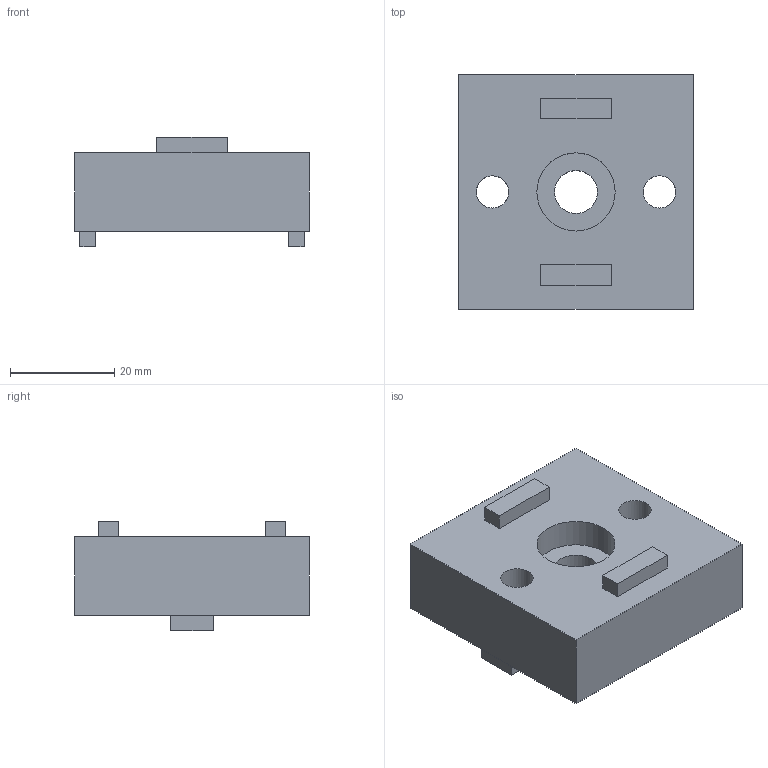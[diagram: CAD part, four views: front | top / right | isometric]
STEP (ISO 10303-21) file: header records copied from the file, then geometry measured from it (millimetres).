
FILE_DESCRIPTION(/* description */ ('Connector 45.45.15'),/* implementation_level */ '2;1');
FILE_NAME(/* name */ 'PA1300030000.stp',/* time_stamp */ '2024-02-07T13:20:18+01:00',/* author */ ('r.biemans'),/* organization */ (''),/* preprocessor_version */ 'ST-DEVELOPER v19.2',/* originating_system */ 'Autodesk Inventor 2023',/* authorisation */ '');
FILE_SCHEMA (('AUTOMOTIVE_DESIGN { 1 0 10303 214 3 1 1 }'));
Length unit declared in the file: millimetre
Products named in the file (1): PA1300030000
Bounding box: 45 x 45 x 21 mm (x, y, z)
Volume: 28458.3 mm3; surface area: 7957.8 mm2
Topology: 1 solids, 1 shells, 33 faces, 84 edges, 56 vertices
Faces by surface type: plane 29, cylinder 4
Full cylindrical faces by diameter (mm): 6.2 x2, 8.2 x1, 15 x1
Entity records: 1045 total; most frequent: CARTESIAN_POINT 174, ORIENTED_EDGE 168, DIRECTION 164, EDGE_CURVE 84, LINE 72, VECTOR 72, VERTEX_POINT 56, AXIS2_PLACEMENT_3D 46
